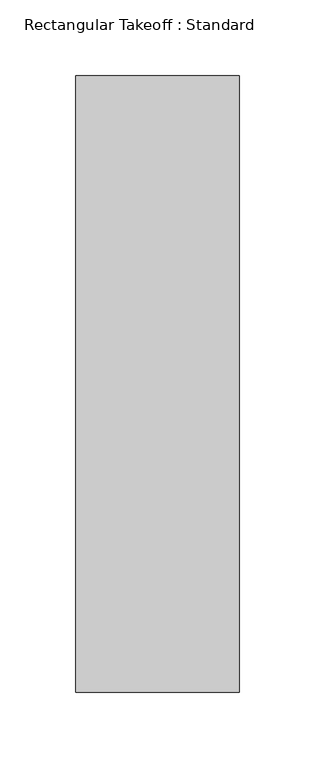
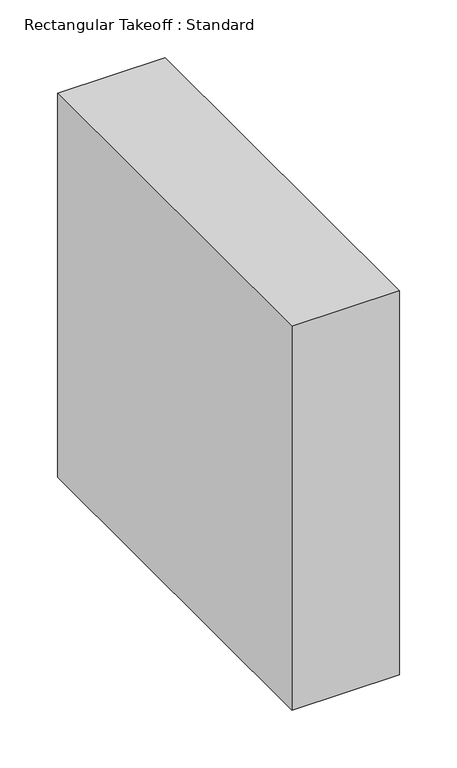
"""IFC4 building model written with IfcOpenShell, lengths in millimetres: duct fitting geometry, Rectangular Takeoff : Standard."""

from ifc_helpers import new_model, si_unit, frame, origin, place, context, project, spatial, polyline, outline, extrude, source, transform, mapped, element, save


def rectangular_takeoff_standard_6de9fcd1(model_context):
    return source(origin(), model_context, "Body", "SweptSolid", [
        extrude(outline(polyline([(-6.096, 203.2), (101.6, 203.2), (101.6, -203.2), (-6.096, -203.2), (-6.096, 203.2)])), frame((0.0, 0.0, -203.2), z_axis=(0.0, 0.0, 1.0), x_axis=(1.0, 0.0, 0.0)), (0.0, 0.0, 1.0), 406.4),
    ])


if __name__ == "__main__":
    model = new_model("IFC4")
    model_context = context("Model", 3, world=origin())
    ifc_project = project(units=[si_unit("LENGTHUNIT", "METRE", prefix="MILLI")], contexts=[model_context])
    site = spatial("IfcSite", under=ifc_project)
    building = spatial("IfcBuilding", under=site)
    placement = place(None, origin())
    rectangular_takeoff_standard_shape = rectangular_takeoff_standard_6de9fcd1(model_context)
    element("IfcDuctFitting", 1, ObjectType="Rectangular Takeoff : Standard", at=placement, inside=building, context=model_context, shape_type="MappedRepresentation", body=[
        mapped(rectangular_takeoff_standard_shape, transform((0.0, 0.0, 0.0), x_axis=(1.0, 0.0, 0.0), y_axis=(0.0, 1.0, 0.0), z_axis=(0.0, 0.0, 1.0))),
    ])
    save(model, "model.ifc")
